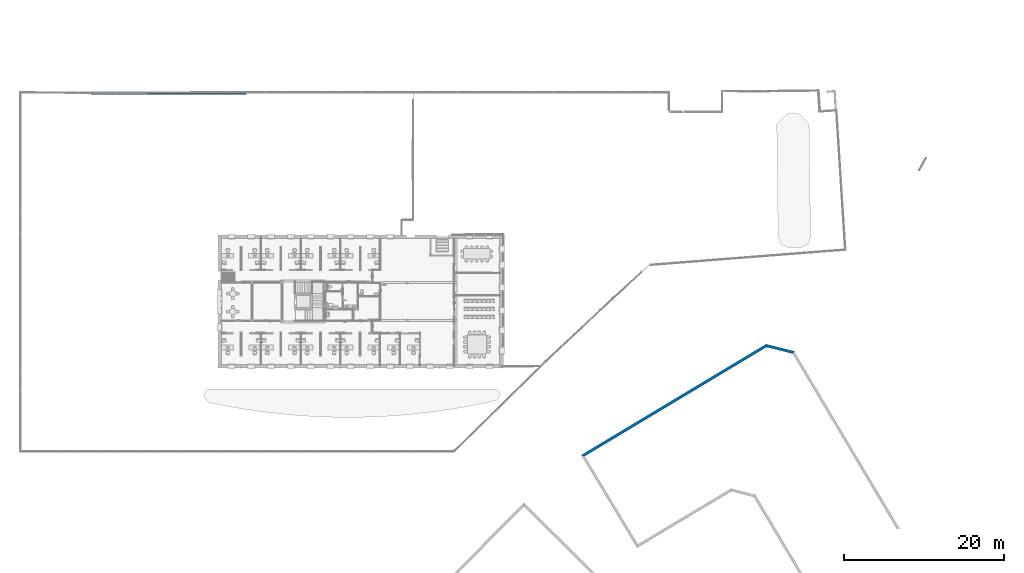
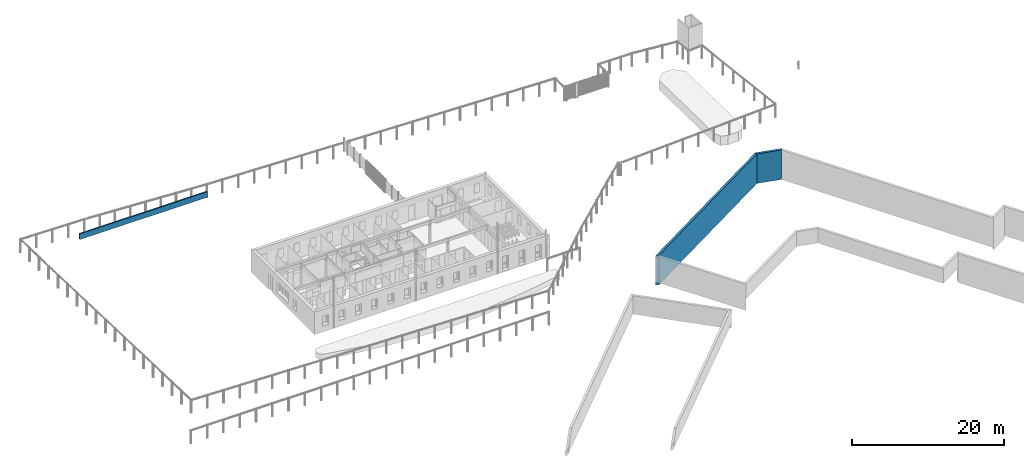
# One storey, part 30 of 91: 3 walls.
"""IFC2X3 building model written with IfcOpenShell, lengths in metres."""

from ifc_helpers import new_model, entity, si_unit, converted_unit, derived_unit, money_unit, direction, frame, origin_with_axes, place, context, subcontext, project, spatial, polyline, outline, extrude, material, layer, layer_set, layer_usage, type_object, element, save


model = new_model("IFC2X3")

# Units and contexts
model_context = context("Model", 3, precision=1e-05, world=origin_with_axes(), true_north=direction((0.0, 1.0)))
body_context = subcontext(model_context, "Body", "Model", "MODEL_VIEW")
ifc_project = project(units=[si_unit("LENGTHUNIT", "METRE"), si_unit("AREAUNIT", "SQUARE_METRE"), si_unit("VOLUMEUNIT", "CUBIC_METRE"), converted_unit("PLANEANGLEUNIT", "DEGREE", entity("IfcPlaneAngleMeasure", 0.0174532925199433), si_unit("PLANEANGLEUNIT", "RADIAN"), dimensions=[0, 0, 0, 0, 0, 0, 0]), money_unit("EUR"), converted_unit("TIMEUNIT", "Year", entity("IfcTimeMeasure", 31557600.0), si_unit("TIMEUNIT", "SECOND"), dimensions=[0, 0, 1, 0, 0, 0, 0]), si_unit("MASSUNIT", "GRAM", prefix="KILO"), si_unit("THERMODYNAMICTEMPERATUREUNIT", "DEGREE_CELSIUS"), si_unit("LUMINOUSINTENSITYUNIT", "LUMEN"), si_unit("ENERGYUNIT", "JOULE", prefix="MEGA"), derived_unit("THERMALCONDUCTANCEUNIT", [(si_unit("POWERUNIT", "WATT"), 1), (si_unit("LENGTHUNIT", "METRE"), -1), (si_unit("THERMODYNAMICTEMPERATUREUNIT", "KELVIN"), -1)]), derived_unit("SPECIFICHEATCAPACITYUNIT", [(si_unit("ENERGYUNIT", "JOULE"), 1), (si_unit("MASSUNIT", "GRAM", prefix="KILO"), -1), (si_unit("THERMODYNAMICTEMPERATUREUNIT", "KELVIN"), -1)]), derived_unit("MASSDENSITYUNIT", [(si_unit("MASSUNIT", "GRAM", prefix="KILO"), 1), (si_unit("VOLUMEUNIT", "CUBIC_METRE"), -1)])], contexts=[model_context])

# Site, building, storey
site_placement = place(None, origin_with_axes())
site = spatial("IfcSite", under=ifc_project, at=site_placement, Name="Site", CompositionType="ELEMENT")
building_placement = place(site_placement, origin_with_axes())
building = spatial("IfcBuilding", under=site, at=building_placement, Name="Bâtiment", CompositionType="ELEMENT")
storey_placement = place(building_placement, origin_with_axes())
storey = spatial("IfcBuildingStorey", under=building, at=storey_placement, Name="RDC", CompositionType="ELEMENT", Elevation=0.0)

# Walls
ifc_material_1 = material(Name="Béton")
ifc_layer_1 = layer(ifc_material_1, 0.2, ventilated="UNKNOWN")
ifc_layer_set_1 = layer_set([ifc_layer_1], Name="Béton 0.2")
ifc_layer_usage_1 = layer_usage(ifc_layer_set_1, "AXIS2", "POSITIVE", -0.2)
wall_type_1 = type_object("IfcWallType", Name="Béton 200", PredefinedType="NOTDEFINED")
wall_1_placement = place(storey_placement, frame((28.15340097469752, 6.788167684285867, 0.0), z_axis=(0.0, 0.0, 1.0), x_axis=(-1.0, 0.0, 0.0)))
element("IfcWallStandardCase", 1, at=wall_1_placement, inside=storey, type_object=wall_type_1, material=ifc_layer_usage_1, Name="MC_AGL_Ext-056", context=body_context, shape_type="SweptSolid", body=[
    extrude(outline(polyline([(0.0, -0.2000000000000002), (19.3355694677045, -0.2000000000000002), (19.3355694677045, 0.0), (0.0, 0.0), (0.0, -0.2000000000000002)])), origin_with_axes(), (0.0, 0.0, 1.0), 0.8999999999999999),
])
ifc_material_2 = material(Name="*GENERIQUE - ENDUIT EXT")
ifc_layer_2 = layer(ifc_material_2, 0.02, ventilated="UNKNOWN")
ifc_material_3 = material(Name="*GENERIQUE - MAÇONNERIE")
ifc_layer_3 = layer(ifc_material_3, 0.2, ventilated="UNKNOWN")
ifc_material_4 = material(Name="*GENERIQUE - ISOLATION INT")
ifc_layer_4 = layer(ifc_material_4, 0.12, ventilated="UNKNOWN")
ifc_material_5 = material(Name="*PLAQUE DE PLATRE - DOUBLAGE")
ifc_layer_5 = layer(ifc_material_5, 0.013, ventilated="UNKNOWN")
ifc_layer_set_2 = layer_set([ifc_layer_2, ifc_layer_3, ifc_layer_4, ifc_layer_5], Name="*Mur MITI 36")
ifc_layer_usage_2 = layer_usage(ifc_layer_set_2, "AXIS2", "POSITIVE", -0.02)
wall_type_2 = type_object("IfcWallType", Name="*Mur MITI 36 353", PredefinedType="NOTDEFINED")
wall_2_placement = place(storey_placement, frame((96.62181879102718, -25.33121155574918, -1.384188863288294), z_axis=(0.0, 0.0, 1.0), x_axis=(-0.9696543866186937, 0.2444797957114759, 0.0)))
element("IfcWallStandardCase", 2, at=wall_2_placement, inside=storey, type_object=wall_type_2, material=ifc_layer_usage_2, Name="MC_AGL_Ext-055", context=body_context, shape_type="SweptSolid", body=[
    extrude(outline(polyline([(-0.0083095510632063, -0.02000000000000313), (3.62666608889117, -0.02000000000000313), (3.4799926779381, 0.3329999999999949), (0.1383540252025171, 0.3329999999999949), (-0.0083095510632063, -0.02000000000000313)])), origin_with_axes(), (0.0, 0.0, 1.0), 4.724188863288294),
])
ifc_layer_usage_3 = layer_usage(ifc_layer_set_2, "AXIS2", "POSITIVE", -0.02)
wall_3_placement = place(storey_placement, frame((93.1132640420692, -24.44659662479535, -1.384188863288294), z_axis=(0.0, 0.0, 1.0), x_axis=(-0.8573901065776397, -0.5146670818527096, 0.0)))
element("IfcWallStandardCase", 3, at=wall_3_placement, inside=storey, type_object=wall_type_2, material=ifc_layer_usage_3, Name="MC_AGL_Ext-056", context=body_context, shape_type="SweptSolid", body=[
    extrude(outline(polyline([(-0.008310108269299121, -0.01999999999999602), (26.9527709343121, -0.01999999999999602), (26.59929588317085, 0.3329999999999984), (0.1383633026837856, 0.3329999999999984), (-0.008310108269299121, -0.01999999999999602)])), origin_with_axes(), (0.0, 0.0, 1.0), 4.724188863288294),
])

save(model, "model.ifc")
